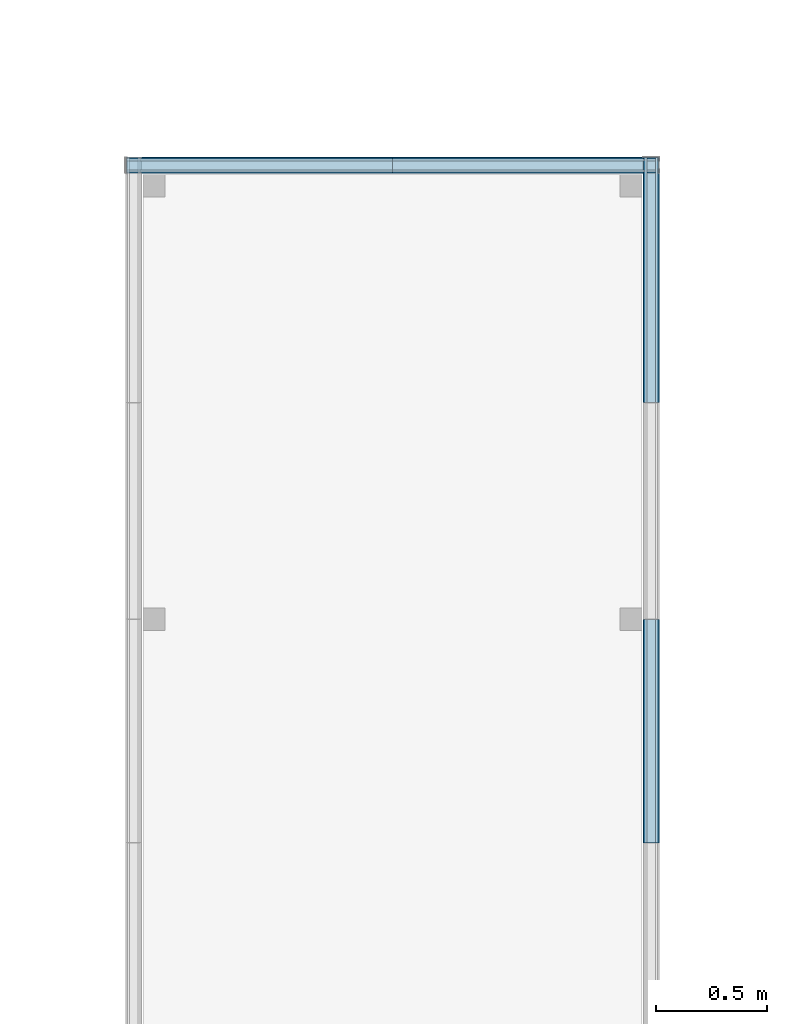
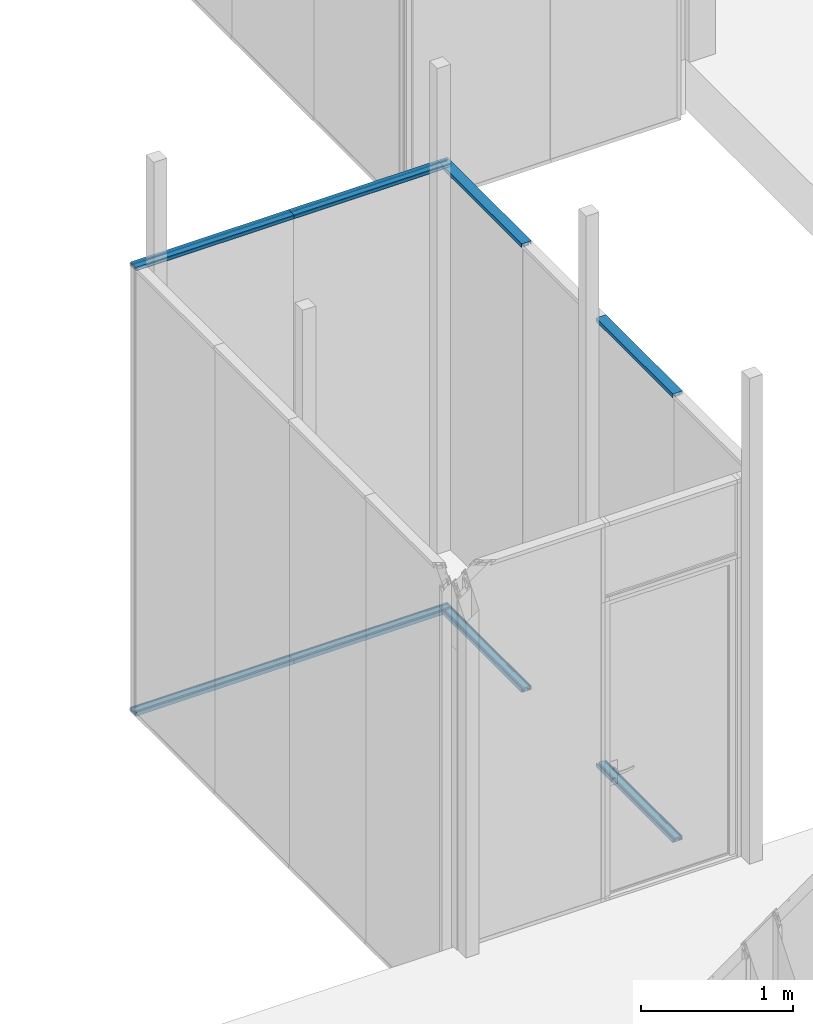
# One storey, part 83 of 387: 16 building element parts, 10 elements without a shape of their own.
"""IFC2X3 building model written with IfcOpenShell, lengths in millimetres."""

from ifc_helpers import new_model, entity, si_unit, converted_unit, derived_unit, money_unit, direction, frame, origin_with_axes, place, context, subcontext, project, spatial, faceted_brep, source, transform, mapped, material, type_object, element, aggregate, save


model = new_model("IFC2X3")

# Units and contexts
model_context = context("Model", 3, precision=0.01, world=origin_with_axes(), true_north=direction((0.0, 1.0)))
body_context = subcontext(model_context, "Body", "Model", "MODEL_VIEW")
ifc_project = project(units=[si_unit("LENGTHUNIT", "METRE", prefix="MILLI"), si_unit("AREAUNIT", "SQUARE_METRE"), si_unit("VOLUMEUNIT", "CUBIC_METRE"), converted_unit("PLANEANGLEUNIT", "DEGREE", entity("IfcPlaneAngleMeasure", 0.0174532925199), si_unit("PLANEANGLEUNIT", "RADIAN"), dimensions=[0, 0, 0, 0, 0, 0, 0]), si_unit("SOLIDANGLEUNIT", "STERADIAN"), money_unit("EUR"), converted_unit("TIMEUNIT", "Year", entity("IfcTimeMeasure", 31556926.0), si_unit("TIMEUNIT", "SECOND"), dimensions=[0, 0, 1, 0, 0, 0, 0]), si_unit("MASSUNIT", "GRAM", prefix="KILO"), si_unit("THERMODYNAMICTEMPERATUREUNIT", "DEGREE_CELSIUS"), si_unit("LUMINOUSINTENSITYUNIT", "LUMEN"), si_unit("ENERGYUNIT", "JOULE", prefix="MEGA"), derived_unit("THERMALCONDUCTANCEUNIT", [(si_unit("POWERUNIT", "WATT"), 1), (si_unit("LENGTHUNIT", "METRE"), -1), (si_unit("THERMODYNAMICTEMPERATUREUNIT", "KELVIN"), -1)]), derived_unit("SPECIFICHEATCAPACITYUNIT", [(si_unit("ENERGYUNIT", "JOULE"), 1), (si_unit("MASSUNIT", "GRAM", prefix="KILO"), -1), (si_unit("THERMODYNAMICTEMPERATUREUNIT", "KELVIN"), -1)]), derived_unit("MASSDENSITYUNIT", [(si_unit("MASSUNIT", "GRAM", prefix="KILO"), 1), (si_unit("VOLUMEUNIT", "CUBIC_METRE"), -1)])], contexts=[model_context])

# Site, building, storey
site_placement = place(None, origin_with_axes())
site = spatial("IfcSite", under=ifc_project, at=site_placement, Name="Puškini 31, Narva", CompositionType="ELEMENT")
building_placement = place(site_placement, origin_with_axes())
building = spatial("IfcBuilding", under=site, at=building_placement, Name="Narva Riigigümnaasium", CompositionType="ELEMENT")
storey_placement = place(building_placement, frame((0.0, 0.0, 2640.0), z_axis=(0.0, 0.0, 1.0), x_axis=(1.0, 0.0, 0.0)))
storey = spatial("IfcBuildingStorey", under=building, at=storey_placement, Name="2.korrus +2.64", CompositionType="ELEMENT", Elevation=2640.0)

# Curtain wall, members, building element parts
curtain_wall_type = type_object("IfcCurtainWallType", Name="Curtain Wall Type", PredefinedType="NOTDEFINED")
curtain_wall_1_placement = place(storey_placement, frame((41391.9999978, 177140.926367, -584.5), z_axis=(0.0, 0.0, 1.0), x_axis=(1.0, 0.0, 0.0)))
curtain_wall_1 = element("IfcCurtainWall", 1, at=curtain_wall_1_placement, inside=storey, type_object=curtain_wall_type, Name="G-SKLF-41")
member_type = type_object("IfcMemberType", Name="Boundary Frame 30 x 37", PredefinedType="MULLION")
member_1_placement = place(curtain_wall_1_placement, frame((2.93809421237e-08, 2587.0, 3599.00002999), z_axis=(0.0, -1.0, 0.0), x_axis=(0.0, 0.0, -1.0)))
member_1 = element("IfcMember", 2, at=member_1_placement, type_object=member_type, Name="G-SKLF-17-raam", ObjectType="MULLION")
ifc_material_1 = material(Name="Klaasvill")
shared_shape_1 = source(origin_with_axes(), body_context, "Body", "Brep", [
    faceted_brep([(7.49999990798, 20.000000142, 0.0), (13.8499999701, 20.000000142, 0.0), (13.8499999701, 20.000000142, 1106.0), (7.49999990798, 20.000000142, 1106.0), (7.49999990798, 34.0161444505, 0.0), (13.8499999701, 34.0161444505, 0.0), (13.8499999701, 34.0161444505, 1106.0), (7.49999990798, 34.0161444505, 1106.0)], [[[0, 1, 2, 3]], [[0, 4, 5, 1]], [[1, 5, 6, 2]], [[3, 2, 6, 7]], [[4, 0, 3, 7]], [[5, 4, 7, 6]]]),
    faceted_brep([(24.987414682, 34.0161444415, 0.0), (25.004489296, 32.0307503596, 0.0), (25.004489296, 32.0307503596, 1106.0), (24.987414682, 34.0161444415, 1106.0), (28.5126239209, 34.0161444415, 0.0), (28.7655837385, 33.0385325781, 0.0), (28.4955493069, 32.0307503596, 0.0), (27.75780152, 31.2930025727, 0.0), (26.7500193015, 31.0229681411, 0.0), (25.742237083, 31.2930025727, 0.0), (25.742237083, 31.2930025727, 1106.0), (26.7500193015, 31.0229681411, 1106.0), (27.75780152, 31.2930025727, 1106.0), (28.4955493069, 32.0307503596, 1106.0), (28.7655837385, 33.0385325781, 1106.0), (28.5126239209, 34.0161444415, 1106.0)], [[[0, 1, 2, 3]], [[0, 4, 5, 6, 7, 8, 9, 1]], [[1, 9, 10, 2]], [[3, 2, 10, 11, 12, 13, 14, 15]], [[4, 0, 3, 15]], [[5, 4, 15, 14]], [[6, 5, 14, 13]], [[7, 6, 13, 12]], [[8, 7, 12, 11]], [[9, 8, 11, 10]]]),
    faceted_brep([(7.49999990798, -19.9999997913, 0.0), (7.49999990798, -34.0161445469, 0.0), (7.49999990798, -34.0161445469, 1106.0), (7.49999990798, -19.9999997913, 1106.0), (13.8499999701, -19.9999997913, 0.0), (13.8499999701, -34.0161445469, 0.0), (13.8499999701, -34.0161445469, 1106.0), (13.8499999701, -19.9999997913, 1106.0)], [[[0, 1, 2, 3]], [[0, 4, 5, 1]], [[1, 5, 6, 2]], [[3, 2, 6, 7]], [[4, 0, 3, 7]], [[5, 4, 7, 6]]]),
    faceted_brep([(25.004489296, -32.0307503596, 0.0), (24.987414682, -34.0161444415, 0.0), (24.987414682, -34.0161444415, 1106.0), (25.004489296, -32.0307503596, 1106.0), (25.742237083, -31.2930025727, 0.0), (26.7500193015, -31.0229681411, 0.0), (27.75780152, -31.2930025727, 0.0), (28.4955493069, -32.0307503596, 0.0), (28.7655837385, -33.0385325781, 0.0), (28.5126239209, -34.0161444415, 0.0), (28.5126239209, -34.0161444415, 1106.0), (28.7655837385, -33.0385325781, 1106.0), (28.4955493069, -32.0307503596, 1106.0), (27.75780152, -31.2930025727, 1106.0), (26.7500193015, -31.0229681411, 1106.0), (25.742237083, -31.2930025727, 1106.0)], [[[0, 1, 2, 3]], [[0, 4, 5, 6, 7, 8, 9, 1]], [[1, 9, 10, 2]], [[3, 2, 10, 11, 12, 13, 14, 15]], [[4, 0, 3, 15]], [[5, 4, 15, 14]], [[6, 5, 14, 13]], [[7, 6, 13, 12]], [[8, 7, 12, 11]], [[9, 8, 11, 10]]]),
])
building_element_part_1_placement = place(member_1_placement, origin_with_axes())
building_element_part_1 = element("IfcBuildingElementPart", 3, at=building_element_part_1_placement, material=ifc_material_1, Name="Klaasvill", context=body_context, shape_type="MappedRepresentation", body=[
    mapped(shared_shape_1, transform((0.0, 0.0, 0.0))),
])
member_2_placement = place(curtain_wall_1_placement, frame((1.68185465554e-08, 1481.0, 0.0), z_axis=(0.0, 1.0, 0.0), x_axis=(0.0, 0.0, 1.0)))
member_2 = element("IfcMember", 4, at=member_2_placement, type_object=member_type, Name="G-SKLF-13-raam", ObjectType="MULLION")
building_element_part_2_placement = place(member_2_placement, origin_with_axes())
building_element_part_2 = element("IfcBuildingElementPart", 5, at=building_element_part_2_placement, material=ifc_material_1, Name="Klaasvill", context=body_context, shape_type="MappedRepresentation", body=[
    mapped(shared_shape_1, transform((0.0, 0.0, 0.0))),
])
ifc_material_2 = material(Name="Teras RAL7012")
shared_shape_2 = source(origin_with_axes(), body_context, "Body", "Brep", [
    faceted_brep([(0.0, -17.0000000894, 0.0), (29.5999996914, -17.0000000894, 0.0), (29.5999996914, -17.0000000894, 1106.0), (0.0, -17.0000000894, 1106.0), (0.0, 17.0000000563, 0.0), (29.5999996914, 17.0000000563, 0.0), (1.9999999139, 15.0000001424, 0.0), (1.9999999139, -15.0000001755, 0.0), (18.7999996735, -15.0000001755, 0.0), (18.7999996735, 15.0000001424, 0.0), (29.5999996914, 17.0000000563, 1106.0), (0.0, 17.0000000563, 1106.0), (1.9999999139, 15.0000001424, 1106.0), (18.7999996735, 15.0000001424, 1106.0), (18.7999996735, -15.0000001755, 1106.0), (1.9999999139, -15.0000001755, 1106.0)], [[[0, 1, 2, 3]], [[0, 4, 5, 1], [6, 7, 8, 9]], [[1, 5, 10, 2]], [[3, 2, 10, 11], [12, 13, 14, 15]], [[4, 0, 3, 11]], [[5, 4, 11, 10]], [[7, 6, 12, 15]], [[8, 7, 15, 14]], [[9, 8, 14, 13]], [[6, 9, 13, 12]]]),
    faceted_brep([(0.0, 17.0, 0.0), (29.5999996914, 17.0000000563, 0.0), (29.5999996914, 17.0000000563, 1106.0), (0.0, 17.0, 1106.0), (0.0, 37.0, 0.0), (30.0000193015, 37.0, 0.0), (30.0000193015, 34.0161444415, 0.0), (28.5126239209, 34.0161444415, 0.0), (24.987414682, 34.0161444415, 0.0), (13.8499999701, 34.0161444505, 0.0), (7.49999999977, 34.0161444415, 0.0), (7.49999999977, 20.0, 0.0), (13.8499999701, 20.000000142, 0.0), (30.0000193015, 20.0, 0.0), (30.0000193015, 17.0, 0.0), (30.0000193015, 17.0, 1106.0), (30.0000193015, 20.0, 1106.0), (13.8499999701, 20.000000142, 1106.0), (7.49999999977, 20.0, 1106.0), (7.49999999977, 34.0161444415, 1106.0), (13.8499999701, 34.0161444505, 1106.0), (24.987414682, 34.0161444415, 1106.0), (28.5126239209, 34.0161444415, 1106.0), (30.0000193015, 34.0161444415, 1106.0), (30.0000193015, 37.0, 1106.0), (0.0, 37.0, 1106.0)], [[[0, 1, 2, 3]], [[0, 4, 5, 6, 7, 8, 9, 10, 11, 12, 13, 14, 1]], [[1, 14, 15, 2]], [[3, 2, 15, 16, 17, 18, 19, 20, 21, 22, 23, 24, 25]], [[4, 0, 3, 25]], [[5, 4, 25, 24]], [[6, 5, 24, 23]], [[7, 6, 23, 22]], [[8, 7, 22, 21]], [[9, 8, 21, 20]], [[10, 9, 20, 19]], [[11, 10, 19, 18]], [[12, 11, 18, 17]], [[13, 12, 17, 16]], [[14, 13, 16, 15]]]),
    faceted_brep([(0.0, -17.0, 0.0), (0.0, -37.0, 0.0), (0.0, -37.0, 1106.0), (0.0, -17.0, 1106.0), (29.5999996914, -17.0000000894, 0.0), (30.0000193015, -17.0, 0.0), (30.0000193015, -20.0, 0.0), (13.8499999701, -19.9999997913, 0.0), (7.49999999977, -20.0, 0.0), (7.49999999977, -34.0161444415, 0.0), (13.8499999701, -34.0161445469, 0.0), (24.987414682, -34.0161444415, 0.0), (28.5126239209, -34.0161444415, 0.0), (30.0000193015, -34.0161444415, 0.0), (30.0000193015, -37.0, 0.0), (30.0000193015, -37.0, 1106.0), (30.0000193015, -34.0161444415, 1106.0), (28.5126239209, -34.0161444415, 1106.0), (24.987414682, -34.0161444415, 1106.0), (13.8499999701, -34.0161445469, 1106.0), (7.49999999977, -34.0161444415, 1106.0), (7.49999999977, -20.0, 1106.0), (13.8499999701, -19.9999997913, 1106.0), (30.0000193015, -20.0, 1106.0), (30.0000193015, -17.0, 1106.0), (29.5999996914, -17.0000000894, 1106.0)], [[[0, 1, 2, 3]], [[0, 4, 5, 6, 7, 8, 9, 10, 11, 12, 13, 14, 1]], [[1, 14, 15, 2]], [[3, 2, 15, 16, 17, 18, 19, 20, 21, 22, 23, 24, 25]], [[4, 0, 3, 25]], [[5, 4, 25, 24]], [[6, 5, 24, 23]], [[7, 6, 23, 22]], [[8, 7, 22, 21]], [[9, 8, 21, 20]], [[10, 9, 20, 19]], [[11, 10, 19, 18]], [[12, 11, 18, 17]], [[13, 12, 17, 16]], [[14, 13, 16, 15]]]),
])
building_element_part_3_placement = place(member_1_placement, origin_with_axes())
building_element_part_3 = element("IfcBuildingElementPart", 6, at=building_element_part_3_placement, material=ifc_material_2, Name="Teras RAL7012", context=body_context, shape_type="MappedRepresentation", body=[
    mapped(shared_shape_2, transform((0.0, 0.0, 0.0))),
])
aggregate(member_1, [building_element_part_1, building_element_part_3])
building_element_part_4_placement = place(member_2_placement, origin_with_axes())
building_element_part_4 = element("IfcBuildingElementPart", 7, at=building_element_part_4_placement, material=ifc_material_2, Name="Teras RAL7012", context=body_context, shape_type="MappedRepresentation", body=[
    mapped(shared_shape_2, transform((0.0, 0.0, 0.0))),
])
aggregate(member_2, [building_element_part_2, building_element_part_4])

curtain_wall_2_placement = place(storey_placement, frame((39625.5819783, 179692.00006, -584.5), z_axis=(0.0, 0.0, 1.0), x_axis=(1.0, 0.0, 0.0)))
curtain_wall_2 = element("IfcCurtainWall", 8, at=curtain_wall_2_placement, inside=storey, type_object=curtain_wall_type, Name="G-SKLF-40")
member_3_placement = place(curtain_wall_2_placement, frame((-599.5, 1.1624479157e-08, 0.0), z_axis=(1.0, 0.0, 0.0), x_axis=(0.0, 0.0, 1.0)))
member_3 = element("IfcMember", 9, at=member_3_placement, type_object=member_type, Name="G-SKLF-29-raam", ObjectType="MULLION")
shared_shape_3 = source(origin_with_axes(), body_context, "Body", "Brep", [
    faceted_brep([(-7.49999990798, 20.000000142, 0.0), (-7.49999990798, 20.000000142, 1199.0), (-13.8499999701, 20.000000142, 1199.0), (-13.8499999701, 20.000000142, 0.0), (-7.49999990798, 34.0161444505, 0.0), (-7.49999990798, 34.0161444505, 1199.0), (-13.8499999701, 34.0161444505, 1199.0), (-13.8499999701, 34.0161444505, 0.0)], [[[0, 1, 2, 3]], [[4, 5, 1, 0]], [[1, 5, 6, 2]], [[3, 2, 6, 7]], [[0, 3, 7, 4]], [[7, 6, 5, 4]]]),
    faceted_brep([(-24.987414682, 34.0161444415, 0.0), (-24.987414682, 34.0161444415, 1199.0), (-25.004489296, 32.0307503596, 1199.0), (-25.004489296, 32.0307503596, 0.0), (-28.5126239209, 34.0161444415, 0.0), (-28.5126239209, 34.0161444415, 1199.0), (-28.7655837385, 33.0385325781, 1199.0), (-28.4955493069, 32.0307503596, 1199.0), (-27.75780152, 31.2930025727, 1199.0), (-26.7500193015, 31.0229681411, 1199.0), (-25.742237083, 31.2930025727, 1199.0), (-25.742237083, 31.2930025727, 0.0), (-26.7500193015, 31.0229681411, 0.0), (-27.75780152, 31.2930025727, 0.0), (-28.4955493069, 32.0307503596, 0.0), (-28.7655837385, 33.0385325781, 0.0)], [[[0, 1, 2, 3]], [[4, 5, 1, 0]], [[1, 5, 6, 7, 8, 9, 10, 2]], [[3, 2, 10, 11]], [[0, 3, 11, 12, 13, 14, 15, 4]], [[15, 6, 5, 4]], [[14, 7, 6, 15]], [[13, 8, 7, 14]], [[12, 9, 8, 13]], [[11, 10, 9, 12]]]),
    faceted_brep([(-7.49999990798, -19.9999997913, 0.0), (-7.49999990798, -19.9999997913, 1199.0), (-7.49999990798, -34.0161445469, 1199.0), (-7.49999990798, -34.0161445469, 0.0), (-13.8499999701, -19.9999997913, 0.0), (-13.8499999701, -19.9999997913, 1199.0), (-13.8499999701, -34.0161445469, 1199.0), (-13.8499999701, -34.0161445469, 0.0)], [[[0, 1, 2, 3]], [[4, 5, 1, 0]], [[1, 5, 6, 2]], [[3, 2, 6, 7]], [[0, 3, 7, 4]], [[7, 6, 5, 4]]]),
    faceted_brep([(-25.004489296, -32.0307503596, 0.0), (-25.004489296, -32.0307503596, 1199.0), (-24.987414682, -34.0161444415, 1199.0), (-24.987414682, -34.0161444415, 0.0), (-25.742237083, -31.2930025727, 0.0), (-25.742237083, -31.2930025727, 1199.0), (-26.7500193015, -31.0229681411, 1199.0), (-27.75780152, -31.2930025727, 1199.0), (-28.4955493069, -32.0307503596, 1199.0), (-28.7655837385, -33.0385325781, 1199.0), (-28.5126239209, -34.0161444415, 1199.0), (-28.5126239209, -34.0161444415, 0.0), (-28.7655837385, -33.0385325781, 0.0), (-28.4955493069, -32.0307503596, 0.0), (-27.75780152, -31.2930025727, 0.0), (-26.7500193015, -31.0229681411, 0.0)], [[[0, 1, 2, 3]], [[4, 5, 1, 0]], [[1, 5, 6, 7, 8, 9, 10, 2]], [[3, 2, 10, 11]], [[0, 3, 11, 12, 13, 14, 15, 4]], [[15, 6, 5, 4]], [[14, 7, 6, 15]], [[13, 8, 7, 14]], [[12, 9, 8, 13]], [[11, 10, 9, 12]]]),
])
building_element_part_5_placement = place(member_3_placement, origin_with_axes())
building_element_part_5 = element("IfcBuildingElementPart", 10, at=building_element_part_5_placement, material=ifc_material_1, Name="Klaasvill", context=body_context, shape_type="MappedRepresentation", body=[
    mapped(shared_shape_3, transform((0.0, 0.0, 0.0), x_axis=(-1.0, 0.0, 0.0), y_axis=(0.0, -1.0, 0.0), z_axis=(0.0, 0.0, 1.0))),
])
member_4_placement = place(curtain_wall_2_placement, frame((599.5, -1.15960574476e-08, 0.0), z_axis=(1.0, 0.0, 0.0), x_axis=(0.0, 0.0, 1.0)))
member_4 = element("IfcMember", 11, at=member_4_placement, type_object=member_type, Name="G-SKLF-30-raam", ObjectType="MULLION")
building_element_part_6_placement = place(member_4_placement, origin_with_axes())
building_element_part_6 = element("IfcBuildingElementPart", 12, at=building_element_part_6_placement, material=ifc_material_1, Name="Klaasvill", context=body_context, shape_type="MappedRepresentation", body=[
    mapped(shared_shape_3, transform((0.0, 0.0, 0.0), x_axis=(-1.0, 0.0, 0.0), y_axis=(0.0, -1.0, 0.0), z_axis=(0.0, 0.0, 1.0))),
])
member_5_placement = place(curtain_wall_2_placement, frame((599.5, -1.15960574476e-08, 3599.00004554), z_axis=(-1.0, 0.0, 0.0), x_axis=(0.0, 0.0, -1.0)))
member_5 = element("IfcMember", 13, at=member_5_placement, type_object=member_type, Name="G-SKLF-35-raam", ObjectType="MULLION")
building_element_part_7_placement = place(member_5_placement, origin_with_axes())
building_element_part_7 = element("IfcBuildingElementPart", 14, at=building_element_part_7_placement, material=ifc_material_1, Name="Klaasvill", context=body_context, shape_type="MappedRepresentation", body=[
    mapped(shared_shape_3, transform((0.0, 0.0, 0.0), x_axis=(-1.0, 0.0, 0.0), y_axis=(0.0, -1.0, 0.0), z_axis=(0.0, 0.0, 1.0))),
])
member_6_placement = place(curtain_wall_2_placement, frame((1798.5, -3.48165940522e-08, 3599.00004554), z_axis=(-1.0, 0.0, 0.0), x_axis=(0.0, 0.0, -1.0)))
member_6 = element("IfcMember", 15, at=member_6_placement, type_object=member_type, Name="G-SKLF-34-raam", ObjectType="MULLION")
aggregate(curtain_wall_2, [member_3, member_4, member_5, member_6])
building_element_part_8_placement = place(member_6_placement, origin_with_axes())
building_element_part_8 = element("IfcBuildingElementPart", 16, at=building_element_part_8_placement, material=ifc_material_1, Name="Klaasvill", context=body_context, shape_type="MappedRepresentation", body=[
    mapped(shared_shape_3, transform((0.0, 0.0, 0.0), x_axis=(-1.0, 0.0, 0.0), y_axis=(0.0, -1.0, 0.0), z_axis=(0.0, 0.0, 1.0))),
])
shared_shape_4 = source(origin_with_axes(), body_context, "Body", "Brep", [
    faceted_brep([(0.0, -17.0000000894, 0.0), (0.0, -17.0000000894, 1199.0), (-29.5999996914, -17.0000000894, 1199.0), (-29.5999996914, -17.0000000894, 0.0), (0.0, 17.0000000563, 0.0), (0.0, 17.0000000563, 1199.0), (-29.5999996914, 17.0000000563, 1199.0), (-1.9999999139, 15.0000001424, 1199.0), (-1.9999999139, -15.0000001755, 1199.0), (-18.7999996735, -15.0000001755, 1199.0), (-18.7999996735, 15.0000001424, 1199.0), (-29.5999996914, 17.0000000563, 0.0), (-1.9999999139, 15.0000001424, 0.0), (-18.7999996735, 15.0000001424, 0.0), (-18.7999996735, -15.0000001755, 0.0), (-1.9999999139, -15.0000001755, 0.0)], [[[0, 1, 2, 3]], [[4, 5, 1, 0]], [[1, 5, 6, 2], [7, 8, 9, 10]], [[3, 2, 6, 11]], [[0, 3, 11, 4], [12, 13, 14, 15]], [[11, 6, 5, 4]], [[15, 8, 7, 12]], [[14, 9, 8, 15]], [[13, 10, 9, 14]], [[12, 7, 10, 13]]]),
    faceted_brep([(0.0, 17.0, 0.0), (0.0, 17.0, 1199.0), (-29.5999996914, 17.0000000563, 1199.0), (-29.5999996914, 17.0000000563, 0.0), (0.0, 37.0, 0.0), (0.0, 37.0, 1199.0), (-30.0000193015, 37.0, 1199.0), (-30.0000193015, 34.0161444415, 1199.0), (-28.5126239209, 34.0161444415, 1199.0), (-24.987414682, 34.0161444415, 1199.0), (-13.8499999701, 34.0161444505, 1199.0), (-7.49999999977, 34.0161444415, 1199.0), (-7.49999999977, 20.0, 1199.0), (-13.8499999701, 20.000000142, 1199.0), (-30.0000193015, 20.0, 1199.0), (-30.0000193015, 17.0, 1199.0), (-30.0000193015, 17.0, 0.0), (-30.0000193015, 20.0, 0.0), (-13.8499999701, 20.000000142, 0.0), (-7.49999999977, 20.0, 0.0), (-7.49999999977, 34.0161444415, 0.0), (-13.8499999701, 34.0161444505, 0.0), (-24.987414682, 34.0161444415, 0.0), (-28.5126239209, 34.0161444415, 0.0), (-30.0000193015, 34.0161444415, 0.0), (-30.0000193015, 37.0, 0.0)], [[[0, 1, 2, 3]], [[4, 5, 1, 0]], [[1, 5, 6, 7, 8, 9, 10, 11, 12, 13, 14, 15, 2]], [[3, 2, 15, 16]], [[0, 3, 16, 17, 18, 19, 20, 21, 22, 23, 24, 25, 4]], [[25, 6, 5, 4]], [[24, 7, 6, 25]], [[23, 8, 7, 24]], [[22, 9, 8, 23]], [[21, 10, 9, 22]], [[20, 11, 10, 21]], [[19, 12, 11, 20]], [[18, 13, 12, 19]], [[17, 14, 13, 18]], [[16, 15, 14, 17]]]),
    faceted_brep([(0.0, -17.0, 0.0), (0.0, -17.0, 1199.0), (0.0, -37.0, 1199.0), (0.0, -37.0, 0.0), (-29.5999996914, -17.0000000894, 0.0), (-29.5999996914, -17.0000000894, 1199.0), (-30.0000193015, -17.0, 1199.0), (-30.0000193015, -20.0, 1199.0), (-13.8499999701, -19.9999997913, 1199.0), (-7.49999999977, -20.0, 1199.0), (-7.49999999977, -34.0161444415, 1199.0), (-13.8499999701, -34.0161445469, 1199.0), (-24.987414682, -34.0161444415, 1199.0), (-28.5126239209, -34.0161444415, 1199.0), (-30.0000193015, -34.0161444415, 1199.0), (-30.0000193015, -37.0, 1199.0), (-30.0000193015, -37.0, 0.0), (-30.0000193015, -34.0161444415, 0.0), (-28.5126239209, -34.0161444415, 0.0), (-24.987414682, -34.0161444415, 0.0), (-13.8499999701, -34.0161445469, 0.0), (-7.49999999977, -34.0161444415, 0.0), (-7.49999999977, -20.0, 0.0), (-13.8499999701, -19.9999997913, 0.0), (-30.0000193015, -20.0, 0.0), (-30.0000193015, -17.0, 0.0)], [[[0, 1, 2, 3]], [[4, 5, 1, 0]], [[1, 5, 6, 7, 8, 9, 10, 11, 12, 13, 14, 15, 2]], [[3, 2, 15, 16]], [[0, 3, 16, 17, 18, 19, 20, 21, 22, 23, 24, 25, 4]], [[25, 6, 5, 4]], [[24, 7, 6, 25]], [[23, 8, 7, 24]], [[22, 9, 8, 23]], [[21, 10, 9, 22]], [[20, 11, 10, 21]], [[19, 12, 11, 20]], [[18, 13, 12, 19]], [[17, 14, 13, 18]], [[16, 15, 14, 17]]]),
])
building_element_part_9_placement = place(member_3_placement, origin_with_axes())
building_element_part_9 = element("IfcBuildingElementPart", 17, at=building_element_part_9_placement, material=ifc_material_2, Name="Teras RAL7012", context=body_context, shape_type="MappedRepresentation", body=[
    mapped(shared_shape_4, transform((0.0, 0.0, 0.0), x_axis=(-1.0, 0.0, 0.0), y_axis=(0.0, -1.0, 0.0), z_axis=(0.0, 0.0, 1.0))),
])
aggregate(member_3, [building_element_part_5, building_element_part_9])
building_element_part_10_placement = place(member_4_placement, origin_with_axes())
building_element_part_10 = element("IfcBuildingElementPart", 18, at=building_element_part_10_placement, material=ifc_material_2, Name="Teras RAL7012", context=body_context, shape_type="MappedRepresentation", body=[
    mapped(shared_shape_4, transform((0.0, 0.0, 0.0), x_axis=(-1.0, 0.0, 0.0), y_axis=(0.0, -1.0, 0.0), z_axis=(0.0, 0.0, 1.0))),
])
aggregate(member_4, [building_element_part_6, building_element_part_10])
building_element_part_11_placement = place(member_5_placement, origin_with_axes())
building_element_part_11 = element("IfcBuildingElementPart", 19, at=building_element_part_11_placement, material=ifc_material_2, Name="Teras RAL7012", context=body_context, shape_type="MappedRepresentation", body=[
    mapped(shared_shape_4, transform((0.0, 0.0, 0.0), x_axis=(-1.0, 0.0, 0.0), y_axis=(0.0, -1.0, 0.0), z_axis=(0.0, 0.0, 1.0))),
])
aggregate(member_5, [building_element_part_7, building_element_part_11])
building_element_part_12_placement = place(member_6_placement, origin_with_axes())
building_element_part_12 = element("IfcBuildingElementPart", 20, at=building_element_part_12_placement, material=ifc_material_2, Name="Teras RAL7012", context=body_context, shape_type="MappedRepresentation", body=[
    mapped(shared_shape_4, transform((0.0, 0.0, 0.0), x_axis=(-1.0, 0.0, 0.0), y_axis=(0.0, -1.0, 0.0), z_axis=(0.0, 0.0, 1.0))),
])
aggregate(member_6, [building_element_part_8, building_element_part_12])

# Member, building element part
member_7_placement = place(curtain_wall_1_placement, frame((-5.72697445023e-09, -504.0, 0.0), z_axis=(0.0, 1.0, 0.0), x_axis=(0.0, 0.0, 1.0)))
member_7 = element("IfcMember", 21, at=member_7_placement, type_object=member_type, Name="G-SKLF-11-raam", ObjectType="MULLION")
shared_shape_5 = source(origin_with_axes(), body_context, "Body", "Brep", [
    faceted_brep([(7.49999990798, 20.000000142, 0.0), (13.8499999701, 20.000000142, 0.0), (13.8499999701, 20.000000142, 1008.0), (7.49999990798, 20.000000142, 1008.0), (7.49999990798, 34.0161444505, 0.0), (13.8499999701, 34.0161444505, 0.0), (13.8499999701, 34.0161444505, 1008.0), (7.49999990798, 34.0161444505, 1008.0)], [[[0, 1, 2, 3]], [[0, 4, 5, 1]], [[1, 5, 6, 2]], [[3, 2, 6, 7]], [[4, 0, 3, 7]], [[5, 4, 7, 6]]]),
    faceted_brep([(24.987414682, 34.0161444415, 0.0), (25.004489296, 32.0307503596, 0.0), (25.004489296, 32.0307503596, 1008.0), (24.987414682, 34.0161444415, 1008.0), (28.5126239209, 34.0161444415, 0.0), (28.7655837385, 33.0385325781, 0.0), (28.4955493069, 32.0307503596, 0.0), (27.75780152, 31.2930025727, 0.0), (26.7500193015, 31.0229681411, 0.0), (25.742237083, 31.2930025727, 0.0), (25.742237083, 31.2930025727, 1008.0), (26.7500193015, 31.0229681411, 1008.0), (27.75780152, 31.2930025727, 1008.0), (28.4955493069, 32.0307503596, 1008.0), (28.7655837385, 33.0385325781, 1008.0), (28.5126239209, 34.0161444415, 1008.0)], [[[0, 1, 2, 3]], [[0, 4, 5, 6, 7, 8, 9, 1]], [[1, 9, 10, 2]], [[3, 2, 10, 11, 12, 13, 14, 15]], [[4, 0, 3, 15]], [[5, 4, 15, 14]], [[6, 5, 14, 13]], [[7, 6, 13, 12]], [[8, 7, 12, 11]], [[9, 8, 11, 10]]]),
    faceted_brep([(7.49999990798, -19.9999997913, 0.0), (7.49999990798, -34.0161445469, 0.0), (7.49999990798, -34.0161445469, 1008.0), (7.49999990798, -19.9999997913, 1008.0), (13.8499999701, -19.9999997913, 0.0), (13.8499999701, -34.0161445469, 0.0), (13.8499999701, -34.0161445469, 1008.0), (13.8499999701, -19.9999997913, 1008.0)], [[[0, 1, 2, 3]], [[0, 4, 5, 1]], [[1, 5, 6, 2]], [[3, 2, 6, 7]], [[4, 0, 3, 7]], [[5, 4, 7, 6]]]),
    faceted_brep([(25.004489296, -32.0307503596, 0.0), (24.987414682, -34.0161444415, 0.0), (24.987414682, -34.0161444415, 1008.0), (25.004489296, -32.0307503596, 1008.0), (25.742237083, -31.2930025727, 0.0), (26.7500193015, -31.0229681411, 0.0), (27.75780152, -31.2930025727, 0.0), (28.4955493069, -32.0307503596, 0.0), (28.7655837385, -33.0385325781, 0.0), (28.5126239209, -34.0161444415, 0.0), (28.5126239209, -34.0161444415, 1008.0), (28.7655837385, -33.0385325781, 1008.0), (28.4955493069, -32.0307503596, 1008.0), (27.75780152, -31.2930025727, 1008.0), (26.7500193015, -31.0229681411, 1008.0), (25.742237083, -31.2930025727, 1008.0)], [[[0, 1, 2, 3]], [[0, 4, 5, 6, 7, 8, 9, 1]], [[1, 9, 10, 2]], [[3, 2, 10, 11, 12, 13, 14, 15]], [[4, 0, 3, 15]], [[5, 4, 15, 14]], [[6, 5, 14, 13]], [[7, 6, 13, 12]], [[8, 7, 12, 11]], [[9, 8, 11, 10]]]),
])
building_element_part_13_placement = place(member_7_placement, origin_with_axes())
building_element_part_13 = element("IfcBuildingElementPart", 22, at=building_element_part_13_placement, material=ifc_material_1, Name="Klaasvill", context=body_context, shape_type="MappedRepresentation", body=[
    mapped(shared_shape_5, transform((0.0, 0.0, 0.0))),
])

# Member
member_8_placement = place(curtain_wall_1_placement, frame((5.72697445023e-09, 504.0, 3599.00002999), z_axis=(0.0, -1.0, 0.0), x_axis=(0.0, 0.0, -1.0)))
member_8 = element("IfcMember", 23, at=member_8_placement, type_object=member_type, Name="G-SKLF-19-raam", ObjectType="MULLION")

aggregate(curtain_wall_1, [member_7, member_8, member_1, member_2])

# Building element part
building_element_part_14_placement = place(member_8_placement, origin_with_axes())
building_element_part_14 = element("IfcBuildingElementPart", 24, at=building_element_part_14_placement, material=ifc_material_1, Name="Klaasvill", context=body_context, shape_type="MappedRepresentation", body=[
    mapped(shared_shape_5, transform((0.0, 0.0, 0.0))),
])

shared_shape_6 = source(origin_with_axes(), body_context, "Body", "Brep", [
    faceted_brep([(0.0, -17.0000000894, 0.0), (29.5999996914, -17.0000000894, 0.0), (29.5999996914, -17.0000000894, 1008.0), (0.0, -17.0000000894, 1008.0), (0.0, 17.0000000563, 0.0), (29.5999996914, 17.0000000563, 0.0), (1.9999999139, 15.0000001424, 0.0), (1.9999999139, -15.0000001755, 0.0), (18.7999996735, -15.0000001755, 0.0), (18.7999996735, 15.0000001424, 0.0), (29.5999996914, 17.0000000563, 1008.0), (0.0, 17.0000000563, 1008.0), (1.9999999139, 15.0000001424, 1008.0), (18.7999996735, 15.0000001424, 1008.0), (18.7999996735, -15.0000001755, 1008.0), (1.9999999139, -15.0000001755, 1008.0)], [[[0, 1, 2, 3]], [[0, 4, 5, 1], [6, 7, 8, 9]], [[1, 5, 10, 2]], [[3, 2, 10, 11], [12, 13, 14, 15]], [[4, 0, 3, 11]], [[5, 4, 11, 10]], [[7, 6, 12, 15]], [[8, 7, 15, 14]], [[9, 8, 14, 13]], [[6, 9, 13, 12]]]),
    faceted_brep([(0.0, 17.0, 0.0), (29.5999996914, 17.0000000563, 0.0), (29.5999996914, 17.0000000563, 1008.0), (0.0, 17.0, 1008.0), (0.0, 37.0, 0.0), (30.0000193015, 37.0, 0.0), (30.0000193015, 34.0161444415, 0.0), (28.5126239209, 34.0161444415, 0.0), (24.987414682, 34.0161444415, 0.0), (13.8499999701, 34.0161444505, 0.0), (7.49999999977, 34.0161444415, 0.0), (7.49999999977, 20.0, 0.0), (13.8499999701, 20.000000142, 0.0), (30.0000193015, 20.0, 0.0), (30.0000193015, 17.0, 0.0), (30.0000193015, 17.0, 1008.0), (30.0000193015, 20.0, 1008.0), (13.8499999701, 20.000000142, 1008.0), (7.49999999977, 20.0, 1008.0), (7.49999999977, 34.0161444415, 1008.0), (13.8499999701, 34.0161444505, 1008.0), (24.987414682, 34.0161444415, 1008.0), (28.5126239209, 34.0161444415, 1008.0), (30.0000193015, 34.0161444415, 1008.0), (30.0000193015, 37.0, 1008.0), (0.0, 37.0, 1008.0)], [[[0, 1, 2, 3]], [[0, 4, 5, 6, 7, 8, 9, 10, 11, 12, 13, 14, 1]], [[1, 14, 15, 2]], [[3, 2, 15, 16, 17, 18, 19, 20, 21, 22, 23, 24, 25]], [[4, 0, 3, 25]], [[5, 4, 25, 24]], [[6, 5, 24, 23]], [[7, 6, 23, 22]], [[8, 7, 22, 21]], [[9, 8, 21, 20]], [[10, 9, 20, 19]], [[11, 10, 19, 18]], [[12, 11, 18, 17]], [[13, 12, 17, 16]], [[14, 13, 16, 15]]]),
    faceted_brep([(0.0, -17.0, 0.0), (0.0, -37.0, 0.0), (0.0, -37.0, 1008.0), (0.0, -17.0, 1008.0), (29.5999996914, -17.0000000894, 0.0), (30.0000193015, -17.0, 0.0), (30.0000193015, -20.0, 0.0), (13.8499999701, -19.9999997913, 0.0), (7.49999999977, -20.0, 0.0), (7.49999999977, -34.0161444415, 0.0), (13.8499999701, -34.0161445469, 0.0), (24.987414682, -34.0161444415, 0.0), (28.5126239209, -34.0161444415, 0.0), (30.0000193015, -34.0161444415, 0.0), (30.0000193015, -37.0, 0.0), (30.0000193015, -37.0, 1008.0), (30.0000193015, -34.0161444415, 1008.0), (28.5126239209, -34.0161444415, 1008.0), (24.987414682, -34.0161444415, 1008.0), (13.8499999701, -34.0161445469, 1008.0), (7.49999999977, -34.0161444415, 1008.0), (7.49999999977, -20.0, 1008.0), (13.8499999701, -19.9999997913, 1008.0), (30.0000193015, -20.0, 1008.0), (30.0000193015, -17.0, 1008.0), (29.5999996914, -17.0000000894, 1008.0)], [[[0, 1, 2, 3]], [[0, 4, 5, 6, 7, 8, 9, 10, 11, 12, 13, 14, 1]], [[1, 14, 15, 2]], [[3, 2, 15, 16, 17, 18, 19, 20, 21, 22, 23, 24, 25]], [[4, 0, 3, 25]], [[5, 4, 25, 24]], [[6, 5, 24, 23]], [[7, 6, 23, 22]], [[8, 7, 22, 21]], [[9, 8, 21, 20]], [[10, 9, 20, 19]], [[11, 10, 19, 18]], [[12, 11, 18, 17]], [[13, 12, 17, 16]], [[14, 13, 16, 15]]]),
])
building_element_part_15_placement = place(member_7_placement, origin_with_axes())
building_element_part_15 = element("IfcBuildingElementPart", 25, at=building_element_part_15_placement, material=ifc_material_2, Name="Teras RAL7012", context=body_context, shape_type="MappedRepresentation", body=[
    mapped(shared_shape_6, transform((0.0, 0.0, 0.0))),
])

aggregate(member_7, [building_element_part_13, building_element_part_15])

building_element_part_16_placement = place(member_8_placement, origin_with_axes())
building_element_part_16 = element("IfcBuildingElementPart", 26, at=building_element_part_16_placement, material=ifc_material_2, Name="Teras RAL7012", context=body_context, shape_type="MappedRepresentation", body=[
    mapped(shared_shape_6, transform((0.0, 0.0, 0.0))),
])

aggregate(member_8, [building_element_part_14, building_element_part_16])

save(model, "model.ifc")
